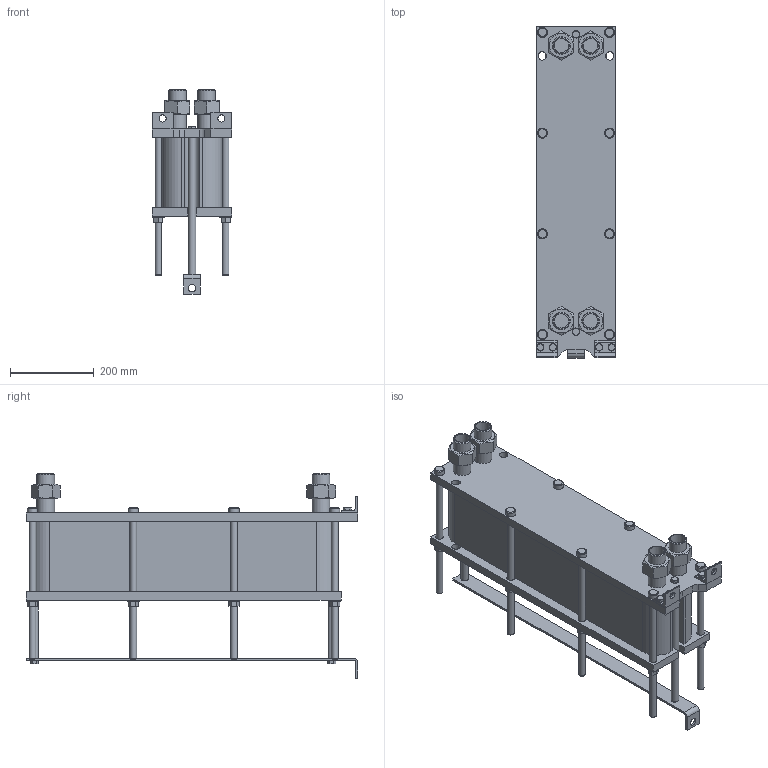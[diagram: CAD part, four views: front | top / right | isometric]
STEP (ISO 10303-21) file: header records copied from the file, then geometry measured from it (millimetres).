
FILE_DESCRIPTION(/* description */ (''),/* implementation_level */ '2;1');
FILE_NAME(/* name */ 'C:\Users\zhuro\Desktop\ENCO\TO\ЭН-008\ЭН-0,5-008-54-1.stp',/* time_stamp */ '2022-06-06T10:49:46+03:00',/* author */ ('zhuro'),/* organization */ (''),/* preprocessor_version */ 'ST-DEVELOPER v18.1',/* originating_system */ 'Autodesk Inventor 2022',/* authorisation */ '');
FILE_SCHEMA (('AUTOMOTIVE_DESIGN { 1 0 10303 214 3 1 1 }'));
Length unit declared in the file: millimetre
Products named in the file (1): ЭН-0,5-008-54-1
Bounding box: 190 x 790 x 488.2 mm (x, y, z)
Volume: 23841187.9 mm3; surface area: 1632418.6 mm2
Topology: 40 solids, 40 shells, 428 faces, 924 edges, 606 vertices
Faces by surface type: plane 273, cylinder 109, cone 40, torus 6
Full cylindrical faces by diameter (mm): 12 x6, 14 x2, 16 x20, 17 x8, 18 x19, 20 x5, 24 x8, 28 x8, 34.3 x8, 42.3 x8
Entity records: 15843 total; most frequent: CARTESIAN_POINT 5991, DIRECTION 1984, ORIENTED_EDGE 1848, EDGE_CURVE 924, AXIS2_PLACEMENT_3D 715, VERTEX_POINT 606, LINE 554, VECTOR 554
